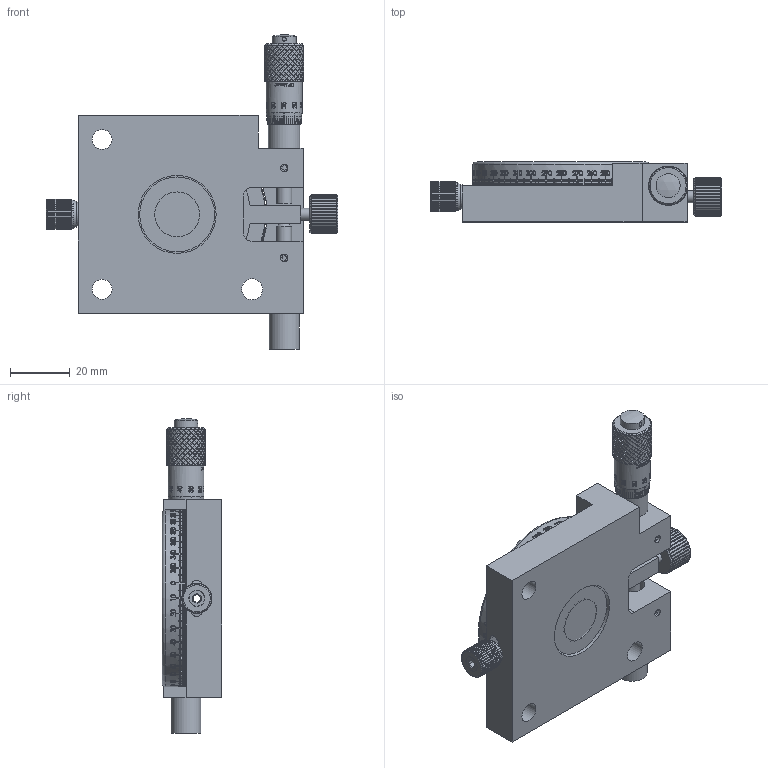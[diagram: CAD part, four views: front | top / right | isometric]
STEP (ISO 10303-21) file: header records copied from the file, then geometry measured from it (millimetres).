
FILE_DESCRIPTION (( 'STEP AP203' ), '1' );
FILE_NAME ('RSQ-59.STEP', '2017-02-14T05:19:00', ( '¦K¬P' ), ( '' ), 'SwSTEP 2.0', 'SolidWorks 2012', '' );
FILE_SCHEMA (( 'CONFIG_CONTROL_DESIGN' ));
Products named in the file (1): RSQ-59
Bounding box: 97.3 x 20 x 104.94 mm (x, y, z)
Surface area: 29680.1 mm2 (no closed solid volume)
Topology: 0 solids, 288 shells, 2025 faces, 10185 edges, 7984 vertices
Faces by surface type: bspline 882, cylinder 826, plane 303, cone 9, torus 4, sphere 1
Full cylindrical faces by diameter (mm): 1.4 x1, 2.5 x2, 3 x1, 3.3 x4, 4 x1, 5 x7, 5.2 x1, 5.3 x1, 6.6 x2, 6.9 x1, 7 x2, 8 x2, 8.5 x1, 9 x1, 10 x1, 10.5 x2, 11 x3, 12 x1, 15 x1, 25 x1, 26 x1, 59 x1
Entity records: 216040 total; most frequent: CARTESIAN_POINT 151740, ORIENTED_EDGE 15177, EDGE_CURVE 10124, DIRECTION 8960, VERTEX_POINT 7975, B_SPLINE_CURVE_WITH_KNOTS 3860, AXIS2_PLACEMENT_3D 3435, EDGE_LOOP 2319
